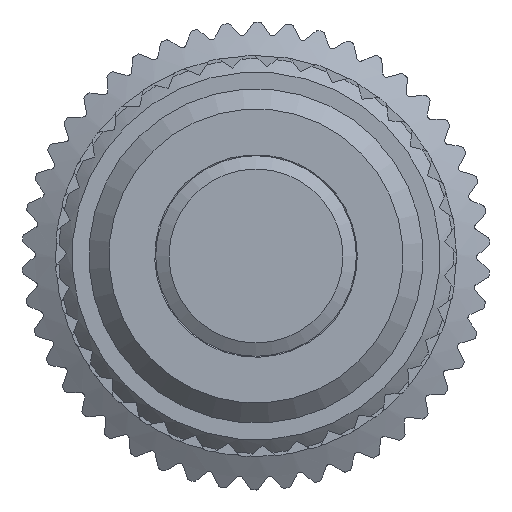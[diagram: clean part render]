
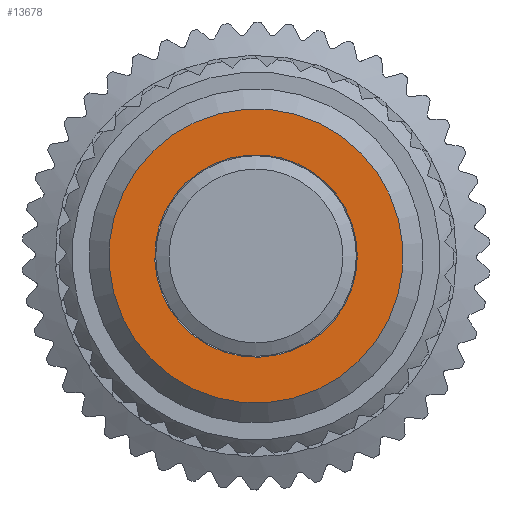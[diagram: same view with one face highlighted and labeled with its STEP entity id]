
A CAD part, left-side view. The second image highlights one B-rep face of the part: STEP entity #13678.
In plain terms, the highlighted planar face has unit normal (-1, 0, 0).
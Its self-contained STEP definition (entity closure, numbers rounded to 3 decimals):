
#3095=PLANE($,#14457);
#3404=FACE_BOUND($,#4215,.T.);
#3446=FACE_OUTER_BOUND($,#4214,.T.);
#4214=EDGE_LOOP($,(#9225));
#4215=EDGE_LOOP($,(#9226));
#5018=CIRCLE($,#14452,3.03);
#5022=CIRCLE($,#14458,4.4);
#5513=VERTEX_POINT($,#18970);
#5517=VERTEX_POINT($,#18980);
#7000=EDGE_CURVE($,#5513,#5513,#5018,.T.);
#7004=EDGE_CURVE($,#5517,#5517,#5022,.T.);
#9225=ORIENTED_EDGE($,*,*,#7004,.F.);
#9226=ORIENTED_EDGE($,*,*,#7000,.F.);
#13678=ADVANCED_FACE($,(#3446,#3404),#3095,.F.);
#14452=AXIS2_PLACEMENT_3D($,#18971,#15660,#15661);
#14457=AXIS2_PLACEMENT_3D($,#18979,#15670,#15671);
#14458=AXIS2_PLACEMENT_3D($,#18981,#15672,#15673);
#15660=DIRECTION('center_axis',(-1.,0.,0.));
#15661=DIRECTION('ref_axis',(0.,-0.078,
-0.997));
#15670=DIRECTION('center_axis',(1.,0.,0.));
#15671=DIRECTION('ref_axis',(0.,-0.078,
-0.997));
#15672=DIRECTION('center_axis',(1.,0.,0.));
#15673=DIRECTION('ref_axis',(0.,-0.078,
-0.997));
#18970=CARTESIAN_POINT('',(3.64,-0.312,13.474));
#18971=CARTESIAN_POINT('Origin',(3.64,-0.549,10.453));
#18979=CARTESIAN_POINT('Origin',(3.64,-0.549,10.453));
#18980=CARTESIAN_POINT('',(3.64,-0.205,14.84));
#18981=CARTESIAN_POINT('Origin',(3.64,-0.549,10.453));
